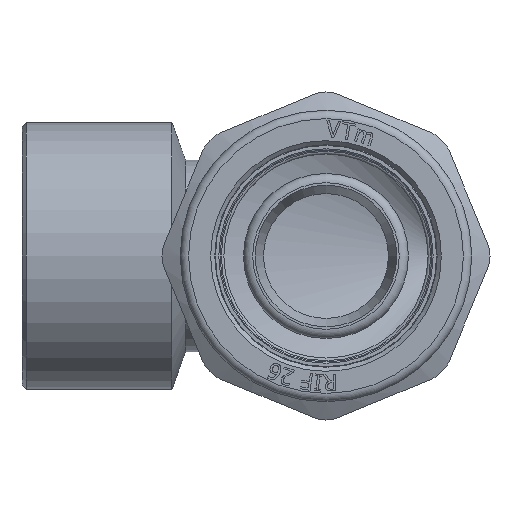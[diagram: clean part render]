
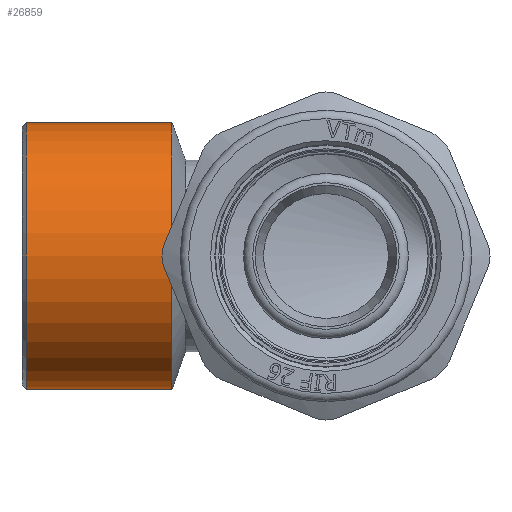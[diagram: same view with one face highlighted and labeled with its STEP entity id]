
A CAD part, left-side view. The second image highlights one B-rep face of the part: STEP entity #26859.
In plain terms, the highlighted cylindrical face has radius 16 mm (diameter 32 mm), a full revolution.
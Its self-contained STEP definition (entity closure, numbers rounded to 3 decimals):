
#1703=CIRCLE('',#27835,16.);
#1704=CIRCLE('',#27836,16.);
#1705=CIRCLE('',#27838,16.);
#1706=CIRCLE('',#27839,16.);
#3350=FACE_OUTER_BOUND('',#4891,.T.);
#4891=EDGE_LOOP('',(#24543,#24544,#24545,#24546,#24547,#24548));
#8446=LINE('',#63787,#10183);
#10183=VECTOR('',#31641,16.);
#12738=VERTEX_POINT('',#63777);
#12739=VERTEX_POINT('',#63778);
#12740=VERTEX_POINT('',#63783);
#12741=VERTEX_POINT('',#63784);
#16744=EDGE_CURVE('',#12738,#12739,#1703,.T.);
#16745=EDGE_CURVE('',#12739,#12738,#1704,.T.);
#16747=EDGE_CURVE('',#12740,#12741,#1705,.T.);
#16748=EDGE_CURVE('',#12741,#12740,#1706,.T.);
#16749=EDGE_CURVE('',#12741,#12739,#8446,.T.);
#24543=ORIENTED_EDGE('',*,*,#16747,.F.);
#24544=ORIENTED_EDGE('',*,*,#16748,.F.);
#24545=ORIENTED_EDGE('',*,*,#16749,.T.);
#24546=ORIENTED_EDGE('',*,*,#16745,.T.);
#24547=ORIENTED_EDGE('',*,*,#16744,.T.);
#24548=ORIENTED_EDGE('',*,*,#16749,.F.);
#25499=CYLINDRICAL_SURFACE('',#27837,16.);
#26859=ADVANCED_FACE('',(#3350),#25499,.T.);
#27835=AXIS2_PLACEMENT_3D('',#63779,#31630,#31631);
#27836=AXIS2_PLACEMENT_3D('',#63780,#31632,#31633);
#27837=AXIS2_PLACEMENT_3D('',#63782,#31635,#31636);
#27838=AXIS2_PLACEMENT_3D('',#63785,#31637,#31638);
#27839=AXIS2_PLACEMENT_3D('',#63786,#31639,#31640);
#31630=DIRECTION('center_axis',(0.,-1.,0.));
#31631=DIRECTION('ref_axis',(1.,0.,0.));
#31632=DIRECTION('center_axis',(0.,-1.,0.));
#31633=DIRECTION('ref_axis',(1.,0.,0.));
#31635=DIRECTION('center_axis',(0.,-1.,0.));
#31636=DIRECTION('ref_axis',(1.,0.,0.));
#31637=DIRECTION('center_axis',(0.,-1.,0.));
#31638=DIRECTION('ref_axis',(1.,0.,0.));
#31639=DIRECTION('center_axis',(0.,-1.,0.));
#31640=DIRECTION('ref_axis',(1.,0.,0.));
#31641=DIRECTION('',(0.,1.,0.));
#63777=CARTESIAN_POINT('',(16.,36.,0.));
#63778=CARTESIAN_POINT('',(-16.,36.,0.));
#63779=CARTESIAN_POINT('Origin',(0.,36.,0.));
#63780=CARTESIAN_POINT('Origin',(0.,36.,0.));
#63782=CARTESIAN_POINT('Origin',(0.,27.25,0.));
#63783=CARTESIAN_POINT('',(16.,18.5,0.));
#63784=CARTESIAN_POINT('',(-16.,18.5,0.));
#63785=CARTESIAN_POINT('Origin',(0.,18.5,0.));
#63786=CARTESIAN_POINT('Origin',(0.,18.5,0.));
#63787=CARTESIAN_POINT('',(-16.,27.25,0.));
